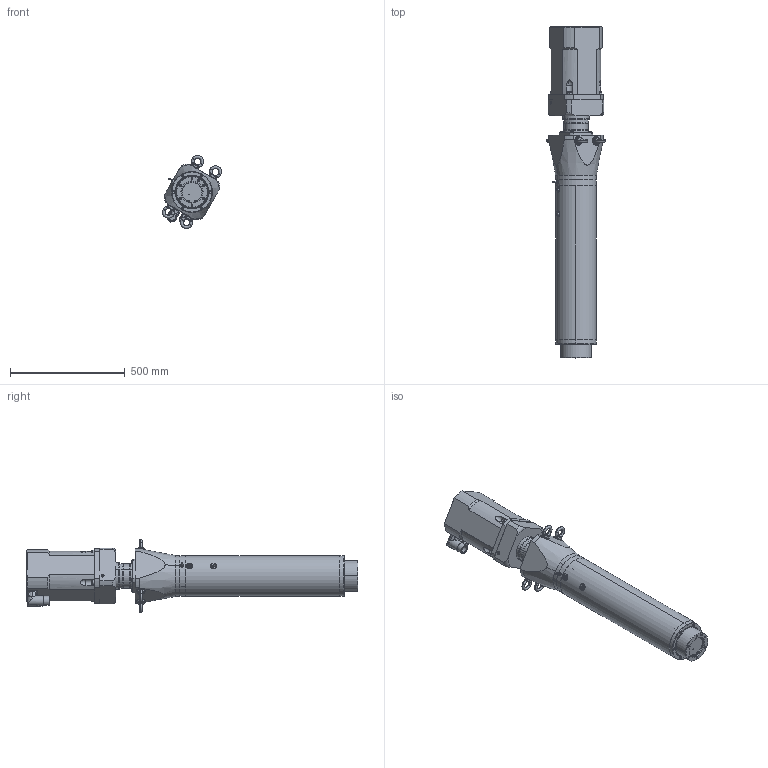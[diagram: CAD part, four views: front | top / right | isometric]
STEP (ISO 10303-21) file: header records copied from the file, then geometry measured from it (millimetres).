
FILE_DESCRIPTION (( 'STEP AP203' ), '1' );
FILE_NAME ('MLN5I0600-035-025NG0.STEP', '2014-11-13T14:37:33', ( 'Holtz' ), ( '' ), 'SwSTEP 2.0', 'SolidWorks 2013', '' );
FILE_SCHEMA (( 'CONFIG_CONTROL_DESIGN' ));
Length unit declared in the file: millimetre
Products named in the file (1): MLN5I0600-035-025NG0
Bounding box: 257.94 x 1445 x 317.97 mm (x, y, z)
Volume: 30308509.1 mm3; surface area: 2225521.8 mm2
Topology: 33 solids, 33 shells, 1184 faces, 2779 edges, 1644 vertices
Faces by surface type: cylinder 456, plane 362, cone 208, torus 82, bspline 74, sphere 2
Entity records: 39186 total; most frequent: CARTESIAN_POINT 12399, DIRECTION 5852, ORIENTED_EDGE 5274, EDGE_CURVE 2637, AXIS2_PLACEMENT_3D 2342, VERTEX_POINT 1644, EDGE_LOOP 1399, CIRCLE 1231
